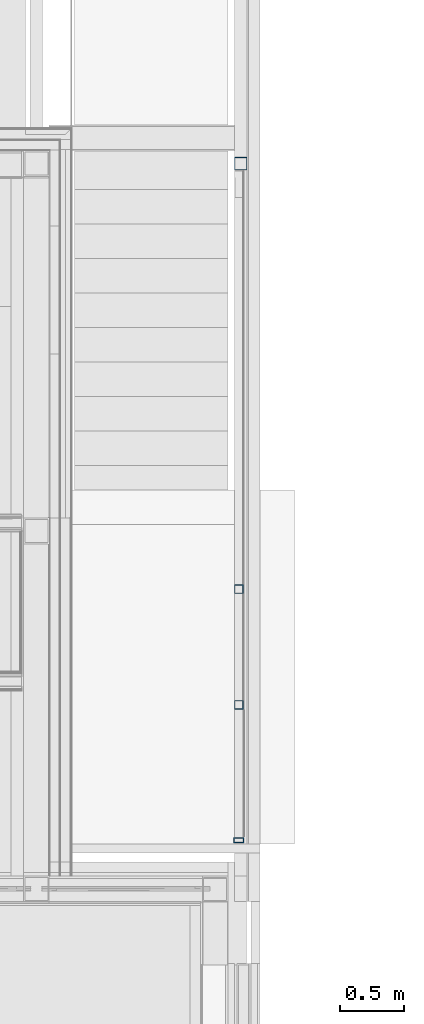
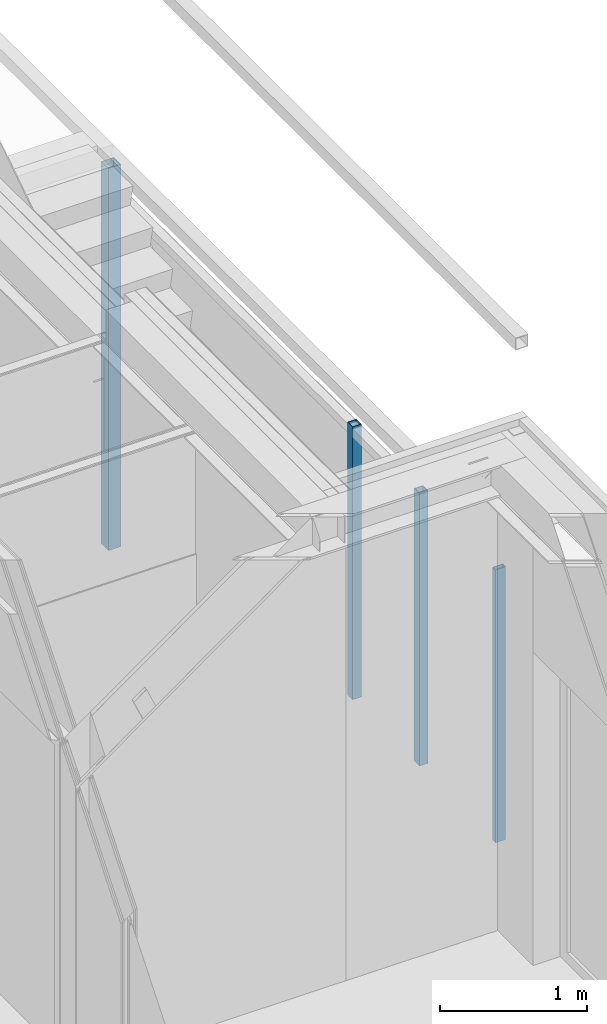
# One storey, part 6 of 165: 4 columns.
"""IFC2X3 building model written with IfcOpenShell, lengths in millimetres."""

import ifcopenshell
import ifcopenshell.guid

model = None  # the IFC model being written
_history = None  # IfcOwnerHistory: only IFC2X3 demands one
_inside = {}  # id of a spatial element -> (the spatial element, [elements in it])
_under = {}  # id of a project, library or spatial element -> (it, [spatial elements below it])
_declared = {}  # id of a project -> (the project, [libraries it declares])
_typed = {}  # id of a type object -> (the type object, [elements of that type])
_made_of = {}  # id of a material, layer set ... -> (it, [elements and type objects made of it])


def new_model(schema):
    """Start an empty IFC model of exactly this schema.

    Asked for "IFC4X3", IfcOpenShell would pick the latest addendum, in which some entities
    have other attributes; the version numbers below select the first issue.
    IFC2X3 requires an IfcOwnerHistory on every rooted entity: one is made here for all.
    """
    global model, _history
    if schema == "IFC4X3":
        model = ifcopenshell.file(schema_version=(4, 3, 0, 0))
    else:
        model = ifcopenshell.file(schema=schema)
    _inside.clear()
    _under.clear()
    _declared.clear()
    _typed.clear()
    _made_of.clear()
    _history = None
    if model.schema == "IFC2X3":
        org = make("IfcOrganization", Name="unknown")
        user = make(
            "IfcPersonAndOrganization",
            ThePerson=make("IfcPerson", FamilyName="unknown"),
            TheOrganization=org,
        )
        app = make(
            "IfcApplication",
            ApplicationDeveloper=org,
            Version="unknown",
            ApplicationFullName="unknown",
            ApplicationIdentifier="unknown",
        )
        _history = make(
            "IfcOwnerHistory",
            OwningUser=user,
            OwningApplication=app,
            ChangeAction="ADDED",
            CreationDate=0,
        )
    return model


def make(cls, **values):
    """One entity of the class cls with the attributes given. An attribute that is None is left unset."""
    return model.create_entity(
        cls, **{name: value for name, value in values.items() if value is not None}
    )


def entity(cls, *values):
    """Any entity or typed value of the class cls, its attributes in the order of the schema. None: left unset."""
    e = model.create_entity(cls)
    for i, value in enumerate(values):
        if value is not None:
            e[i] = value
    return e


def rooted(cls, **values):
    """An entity with a GlobalId (a new one), such as an element, a storey or a relation."""
    return make(cls, GlobalId=ifcopenshell.guid.new(), OwnerHistory=_history, **values)


def si_unit(unit_type, name, prefix=None):
    """IfcSIUnit, for example si_unit("LENGTHUNIT", "METRE", prefix="MILLI")."""
    return make("IfcSIUnit", UnitType=unit_type, Prefix=prefix, Name=name)


def converted_unit(unit_type, name, factor, base, dimensions=None, offset=None):
    """IfcConversionBasedUnit, such as the inch: factor (a typed value) times the base unit."""
    return make(
        "IfcConversionBasedUnit"
        if offset is None
        else "IfcConversionBasedUnitWithOffset",
        ConversionOffset=offset,
        Dimensions=None
        if dimensions is None
        else entity("IfcDimensionalExponents", *dimensions),
        UnitType=unit_type,
        Name=name,
        ConversionFactor=make(
            "IfcMeasureWithUnit", ValueComponent=factor, UnitComponent=base
        ),
    )


def derived_unit(unit_type, elements):
    """IfcDerivedUnit: a product of units, each with its exponent."""
    return make(
        "IfcDerivedUnit",
        Elements=[
            make("IfcDerivedUnitElement", Unit=unit, Exponent=power)
            for unit, power in elements
        ],
        UnitType=unit_type,
    )


def money_unit(currency):
    """IfcMonetaryUnit."""
    return make("IfcMonetaryUnit", Currency=currency)


def assignment(units):
    """IfcUnitAssignment: the units of a project."""
    return None if units is None else make("IfcUnitAssignment", Units=units)


def point(xyz):
    """IfcCartesianPoint."""
    return None if xyz is None else make("IfcCartesianPoint", Coordinates=xyz)


def direction(xyz):
    """IfcDirection."""
    return None if xyz is None else make("IfcDirection", DirectionRatios=xyz)


def frame(location, z_axis=None, x_axis=None):
    """IfcAxis2Placement3D, a coordinate frame: its origin and axes. An axis left out is left unset."""
    return make(
        "IfcAxis2Placement3D",
        Location=point(location),
        Axis=direction(z_axis),
        RefDirection=direction(x_axis),
    )


def origin_with_axes():
    """The frame at (0, 0, 0) with the z axis (0, 0, 1) and the x axis (1, 0, 0) written out."""
    return frame((0.0, 0.0, 0.0), z_axis=(0.0, 0.0, 1.0), x_axis=(1.0, 0.0, 0.0))


def place(relative_to, where):
    """IfcLocalPlacement: puts the frame where relative to a parent placement (None: the world)."""
    return make(
        "IfcLocalPlacement", PlacementRelTo=relative_to, RelativePlacement=where
    )


def context(
    kind, dimensions, precision=None, world=None, true_north=None, identifier=None
):
    """IfcGeometricRepresentationContext, for example the 3D "Model" context."""
    return make(
        "IfcGeometricRepresentationContext",
        ContextIdentifier=identifier,
        ContextType=kind,
        CoordinateSpaceDimension=dimensions,
        Precision=precision,
        WorldCoordinateSystem=world,
        TrueNorth=true_north,
    )


def subcontext(parent, identifier, kind, view, scale=None):
    """IfcGeometricRepresentationSubContext, for example "Body" below "Model"."""
    return make(
        "IfcGeometricRepresentationSubContext",
        ContextIdentifier=identifier,
        ContextType=kind,
        ParentContext=parent,
        TargetScale=scale,
        TargetView=view,
    )


def project(units=None, contexts=None):
    """IfcProject with its units and contexts."""
    return rooted(
        "IfcProject",
        Name="project",
        RepresentationContexts=contexts,
        UnitsInContext=assignment(units),
    )


def spatial(cls, under=None, at=None, **own):
    """A site, building, storey or space (cls), placed at a placement, below another one or the project."""
    s = rooted(cls, ObjectPlacement=at, **own)
    if under is not None:
        _under.setdefault(under.id(), (under, []))[1].append(s)
    return s


def faces_of(points, faces, orient=None, outer=None):
    """IfcFace entities. A face is a list of loops; a loop is a list of indices into points, from 0.

    orient and outer hold one flag for each loop. By default every Orientation is true, the
    first loop of a face is its IfcFaceOuterBound and the others are IfcFaceBound.
    """
    made = []
    for i, loops in enumerate(faces):
        bounds = []
        for j, loop in enumerate(loops):
            is_outer = j == 0 if outer is None else outer[i][j]
            bounds.append(
                make(
                    "IfcFaceOuterBound" if is_outer else "IfcFaceBound",
                    Bound=make("IfcPolyLoop", Polygon=[points[k] for k in loop]),
                    Orientation=True if orient is None else orient[i][j],
                )
            )
        made.append(make("IfcFace", Bounds=bounds))
    return made


def faceted_brep(points, faces, orient=None, outer=None, voids=None):
    """IfcFacetedBrep: a solid bounded by flat faces; with voids (closed shells), ...WithVoids."""
    shared = [point(p) for p in points]
    hull = make("IfcClosedShell", CfsFaces=faces_of(shared, faces, orient, outer))
    if voids is None:
        return make("IfcFacetedBrep", Outer=hull)
    return make(
        "IfcFacetedBrepWithVoids",
        Outer=hull,
        Voids=[
            make(cls, CfsFaces=faces_of(shared, fs, o, b)) for cls, fs, o, b in voids
        ],
    )


def shape(context_of_items, identifier, shape_type, items):
    """IfcShapeRepresentation: the items that make up one representation, for example the "Body"."""
    return make(
        "IfcShapeRepresentation",
        ContextOfItems=context_of_items,
        RepresentationIdentifier=identifier,
        RepresentationType=shape_type,
        Items=items,
    )


def material(Name=None, Category=None):
    """IfcMaterial."""
    return make("IfcMaterial", Name=Name, Category=Category)


def made_of(thing, what):
    """Note that an element or type object is made of a material, layer set ...; save() writes the relation."""
    if what is not None:
        _made_of.setdefault(what.id(), (what, []))[1].append(thing)
    return thing


def type_object(cls, material=None, **own):
    """A type object (cls), such as IfcWallType, which elements share."""
    return made_of(rooted(cls, **own), material)


def element(
    cls,
    number,
    at=None,
    inside=None,
    cuts=None,
    type_object=None,
    material=None,
    context=None,
    identifier="Body",
    shape_type=None,
    held_by="IfcProductDefinitionShape",
    body=None,
    shapes=None,
    **own,
):
    """One element of the class cls, such as IfcWall. Its Tag is "e" and its number.

    at: its placement. inside: the storey or other place that contains it. cuts: it is an
    opening in that element (IfcRelVoidsElement). A single representation is given by context,
    identifier, shape_type and body (its items); several are given by shapes. held_by: the class
    of the entity that holds the representations. save() writes the other relations.
    """
    e = rooted(cls, Tag="e%d" % number, ObjectPlacement=at, **own)
    if body is not None:
        shapes = [shape(context, identifier, shape_type, body)]
    if shapes is not None:
        e.Representation = make(held_by, Representations=shapes)
    if inside is not None:
        _inside.setdefault(inside.id(), (inside, []))[1].append(e)
    if cuts is not None:
        rooted(
            "IfcRelVoidsElement", RelatingBuildingElement=cuts, RelatedOpeningElement=e
        )
    if type_object is not None:
        _typed.setdefault(type_object.id(), (type_object, []))[1].append(e)
    return made_of(e, material)


def aggregate(whole, parts):
    """IfcRelAggregates: a whole, such as a stair, and the parts it consists of."""
    return rooted("IfcRelAggregates", RelatingObject=whole, RelatedObjects=parts)


def save(model, path):
    """Write the relations noted so far, then the file.

    IfcRelAggregates (storeys below a building ...), IfcRelContainedInSpatialStructure (elements
    in a storey), IfcRelDefinesByType, IfcRelAssociatesMaterial and IfcRelDeclares: one each for
    every whole, place, type object, material and project.
    """
    for whole, parts in _under.values():
        aggregate(whole, parts)
    for where, things in _inside.values():
        rooted(
            "IfcRelContainedInSpatialStructure",
            RelatedElements=things,
            RelatingStructure=where,
        )
    for kind, things in _typed.values():
        rooted("IfcRelDefinesByType", RelatedObjects=things, RelatingType=kind)
    for what, things in _made_of.values():
        rooted("IfcRelAssociatesMaterial", RelatedObjects=things, RelatingMaterial=what)
    for by, libraries in _declared.values():
        rooted("IfcRelDeclares", RelatingContext=by, RelatedDefinitions=libraries)
    model.write(path)


model = new_model("IFC2X3")

# Units and contexts
model_context = context("Model", 3, precision=0.01, world=origin_with_axes(), true_north=direction((0.0, 1.0)))
body_context = subcontext(model_context, "Body", "Model", "MODEL_VIEW")
ifc_project = project(units=[si_unit("LENGTHUNIT", "METRE", prefix="MILLI"), si_unit("AREAUNIT", "SQUARE_METRE"), si_unit("VOLUMEUNIT", "CUBIC_METRE"), converted_unit("PLANEANGLEUNIT", "DEGREE", entity("IfcPlaneAngleMeasure", 0.0174532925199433), si_unit("PLANEANGLEUNIT", "RADIAN"), dimensions=[0, 0, 0, 0, 0, 0, 0]), money_unit("EUR"), converted_unit("TIMEUNIT", "Year", entity("IfcTimeMeasure", 31556926.0), si_unit("TIMEUNIT", "SECOND"), dimensions=[0, 0, 1, 0, 0, 0, 0]), si_unit("MASSUNIT", "GRAM", prefix="KILO"), si_unit("THERMODYNAMICTEMPERATUREUNIT", "DEGREE_CELSIUS"), si_unit("LUMINOUSINTENSITYUNIT", "LUMEN"), si_unit("ENERGYUNIT", "JOULE", prefix="MEGA"), derived_unit("THERMALCONDUCTANCEUNIT", [(si_unit("POWERUNIT", "WATT"), 1), (si_unit("LENGTHUNIT", "METRE"), -1), (si_unit("THERMODYNAMICTEMPERATUREUNIT", "KELVIN"), -1)]), derived_unit("SPECIFICHEATCAPACITYUNIT", [(si_unit("ENERGYUNIT", "JOULE"), 1), (si_unit("MASSUNIT", "GRAM", prefix="KILO"), -1), (si_unit("THERMODYNAMICTEMPERATUREUNIT", "KELVIN"), -1)]), derived_unit("MASSDENSITYUNIT", [(si_unit("MASSUNIT", "GRAM", prefix="KILO"), 1), (si_unit("VOLUMEUNIT", "CUBIC_METRE"), -1)])], contexts=[model_context])

# Site, building, storey
site_placement = place(None, origin_with_axes())
site = spatial("IfcSite", under=ifc_project, at=site_placement, Name="Site", CompositionType="ELEMENT")
building_placement = place(site_placement, origin_with_axes())
building = spatial("IfcBuilding", under=site, at=building_placement, Name="Naam gebouw", CompositionType="ELEMENT")
storey_placement = place(building_placement, origin_with_axes())
storey = spatial("IfcBuildingStorey", under=building, at=storey_placement, Name="Begane grond", CompositionType="ELEMENT", Elevation=0.0)

# Columns
ifc_material = material(Name="Metaal - Staal C")
column_type_1 = type_object("IfcColumnType", Name="100X100X5 100 x 100", PredefinedType="COLUMN")
column_1_placement = place(storey_placement, frame((29999.99999999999, 22324.99984707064, -425.0000000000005), z_axis=(0.0, 0.0, 1.0), x_axis=(1.0, 0.0, 0.0)))
element("IfcColumn", 1, at=column_1_placement, inside=storey, type_object=column_type_1, material=ifc_material, Name="28_Kolom-x", ObjectType="COLUMN", context=body_context, shape_type="Brep", body=[
    faceted_brep([(-50.00000000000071, -50.00000000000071, 3165.000013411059), (-50.00000000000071, -50.00000000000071, 0.0), (50.00000000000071, -50.00000000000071, 0.0), (50.00000000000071, -50.00000000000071, 3165.000013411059), (-50.00000000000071, 50.00000000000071, 3165.000013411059), (-50.00000000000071, 50.00000000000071, 0.0), (50.00000000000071, 50.00000000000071, 0.0), (-45.00000000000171, 45.00000000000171, 0.0), (-45.00000000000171, -45.00000000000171, 0.0), (45.00000000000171, -45.00000000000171, 0.0), (45.00000000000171, 45.00000000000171, 0.0), (50.00000000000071, 50.00000000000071, 3165.000013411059), (45.00000000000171, -45.00000000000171, 3165.000013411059), (-45.00000000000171, -45.00000000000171, 3165.000013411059), (-45.00000000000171, 45.00000000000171, 3165.000013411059), (45.00000000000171, 45.00000000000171, 3165.000013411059)], [[[0, 1, 2, 3]], [[4, 5, 1, 0]], [[2, 1, 5, 6], [7, 8, 9, 10]], [[3, 2, 6, 11]], [[4, 0, 3, 11], [12, 13, 14, 15]], [[11, 6, 5, 4]], [[13, 8, 7, 14]], [[12, 9, 8, 13]], [[15, 10, 9, 12]], [[14, 7, 10, 15]]]),
])
column_type_2 = type_object("IfcColumnType", Name="70X70X5  70 x 70", PredefinedType="COLUMN")
for number, where, z_axis, x_axis, name in (
    (2, (29984.99996869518, 18089.99775921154, 350.0496282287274), (0.0, 0.0, 1.0), (1.0, 0.0, 0.0), "28_Kolom-x"),
    (3, (29984.99999999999, 18994.99777137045, 350.0496282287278), (0.0, 0.0, 1.0), (1.0, 0.0, 0.0), "28_Kolom-x"),
):
    element("IfcColumn", number, at=place(storey_placement, frame(where, z_axis=z_axis, x_axis=x_axis)), inside=storey, type_object=column_type_2, material=ifc_material, Name=name, ObjectType="COLUMN", context=body_context, shape_type="Brep", body=[
        faceted_brep([(-35.00000000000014, -35.00000000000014, 2259.962801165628), (-35.00000000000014, -35.00000000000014, 0.0), (35.00000000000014, -35.00000000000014, 0.0), (35.00000000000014, -35.00000000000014, 2259.962801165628), (-35.00000000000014, 35.00000000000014, 2259.962801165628), (-35.00000000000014, 35.00000000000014, 0.0), (35.00000000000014, 35.00000000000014, 0.0), (-30.00000000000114, 30.00000000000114, 0.0), (-30.00000000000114, -30.00000000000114, 0.0), (30.00000000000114, -30.00000000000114, 0.0), (30.00000000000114, 30.00000000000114, 0.0), (35.00000000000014, 35.00000000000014, 2259.962801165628), (30.00000000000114, -30.00000000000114, 2259.962801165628), (-30.00000000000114, -30.00000000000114, 2259.962801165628), (-30.00000000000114, 30.00000000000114, 2259.962801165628), (30.00000000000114, 30.00000000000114, 2259.962801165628)], [[[0, 1, 2, 3]], [[4, 5, 1, 0]], [[2, 1, 5, 6], [7, 8, 9, 10]], [[3, 2, 6, 11]], [[4, 0, 3, 11], [12, 13, 14, 15]], [[11, 6, 5, 4]], [[13, 8, 7, 14]], [[12, 9, 8, 13]], [[15, 10, 9, 12]], [[14, 7, 10, 15]]]),
    ])
column_type_3 = type_object("IfcColumnType", Name="80x40x5 80 x 40", PredefinedType="COLUMN")
column_2_placement = place(storey_placement, frame((29983.99999999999, 17029.99778166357, 350.0496282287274), z_axis=(0.0, 0.0, 1.0), x_axis=(1.0, 0.0, 0.0)))
element("IfcColumn", 4, at=column_2_placement, inside=storey, type_object=column_type_3, material=ifc_material, Name="28_Kolom-x", ObjectType="COLUMN", context=body_context, shape_type="Brep", body=[
    faceted_brep([(-39.99999999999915, -19.99999999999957, 2259.962801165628), (-39.99999999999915, -19.99999999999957, 0.0), (39.99999999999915, -19.99999999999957, 0.0), (39.99999999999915, -19.99999999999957, 2259.962801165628), (-39.99999999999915, 19.99069202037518, 2259.962801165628), (-39.99999999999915, 19.99069202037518, 0.0), (39.99999999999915, 19.99069202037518, 0.0), (-35.00000000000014, 14.99069202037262, 0.0), (-35.00000000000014, -15.00000000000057, 0.0), (35.00000000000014, -15.00000000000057, 0.0), (35.00000000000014, 14.99069202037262, 0.0), (39.99999999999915, 19.99069202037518, 2259.962801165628), (35.00000000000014, -15.00000000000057, 2259.962801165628), (-35.00000000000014, -15.00000000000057, 2259.962801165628), (-35.00000000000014, 14.99069202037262, 2259.962801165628), (35.00000000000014, 14.99069202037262, 2259.962801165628)], [[[0, 1, 2, 3]], [[4, 5, 1, 0]], [[2, 1, 5, 6], [7, 8, 9, 10]], [[3, 2, 6, 11]], [[4, 0, 3, 11], [12, 13, 14, 15]], [[11, 6, 5, 4]], [[13, 8, 7, 14]], [[12, 9, 8, 13]], [[15, 10, 9, 12]], [[14, 7, 10, 15]]]),
])

save(model, "model.ifc")
